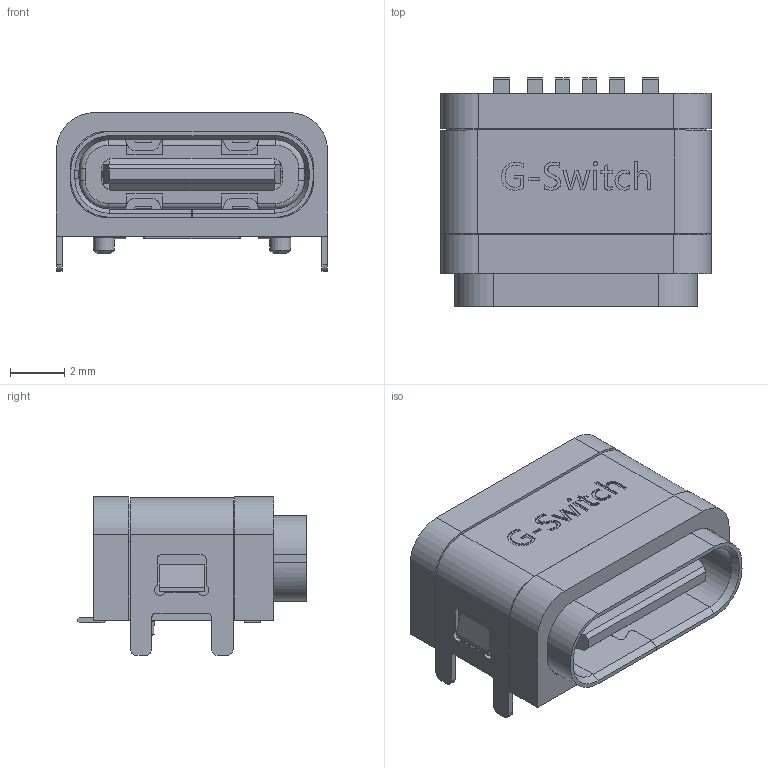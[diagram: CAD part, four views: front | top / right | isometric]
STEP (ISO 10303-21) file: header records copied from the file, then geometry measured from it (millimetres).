
FILE_DESCRIPTION (( 'STEP AP203' ), '1' );
FILE_NAME ('GT-USB-7040C.stp', '2023-02-25T02:56:06', ( '' ), ( '' ), 'SwSTEP 2.0', 'SolidWorks 2021', '' );
FILE_SCHEMA (( 'CONFIG_CONTROL_DESIGN' ));
Length unit declared in the file: millimetre
Products named in the file (1): GT-USB-7040C
Bounding box: 10 x 8.44 x 5.86 mm (x, y, z)
Volume: 231.8 mm3; surface area: 881.6 mm2
Topology: 1 solids, 3 shells, 877 faces, 2528 edges, 1660 vertices
Faces by surface type: plane 651, cylinder 142, bspline 48, cone 31, torus 5
Entity records: 31650 total; most frequent: CARTESIAN_POINT 9220, ORIENTED_EDGE 5056, DIRECTION 3991, EDGE_CURVE 2528, VECTOR 2001, LINE 2001, VERTEX_POINT 1660, AXIS2_PLACEMENT_3D 995
